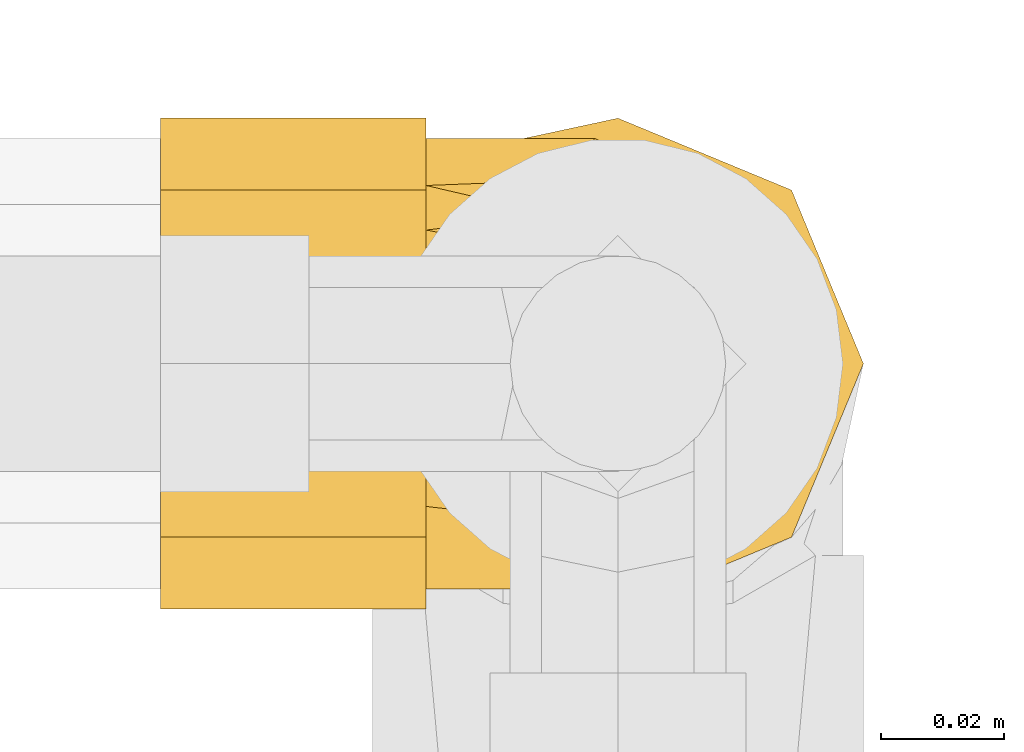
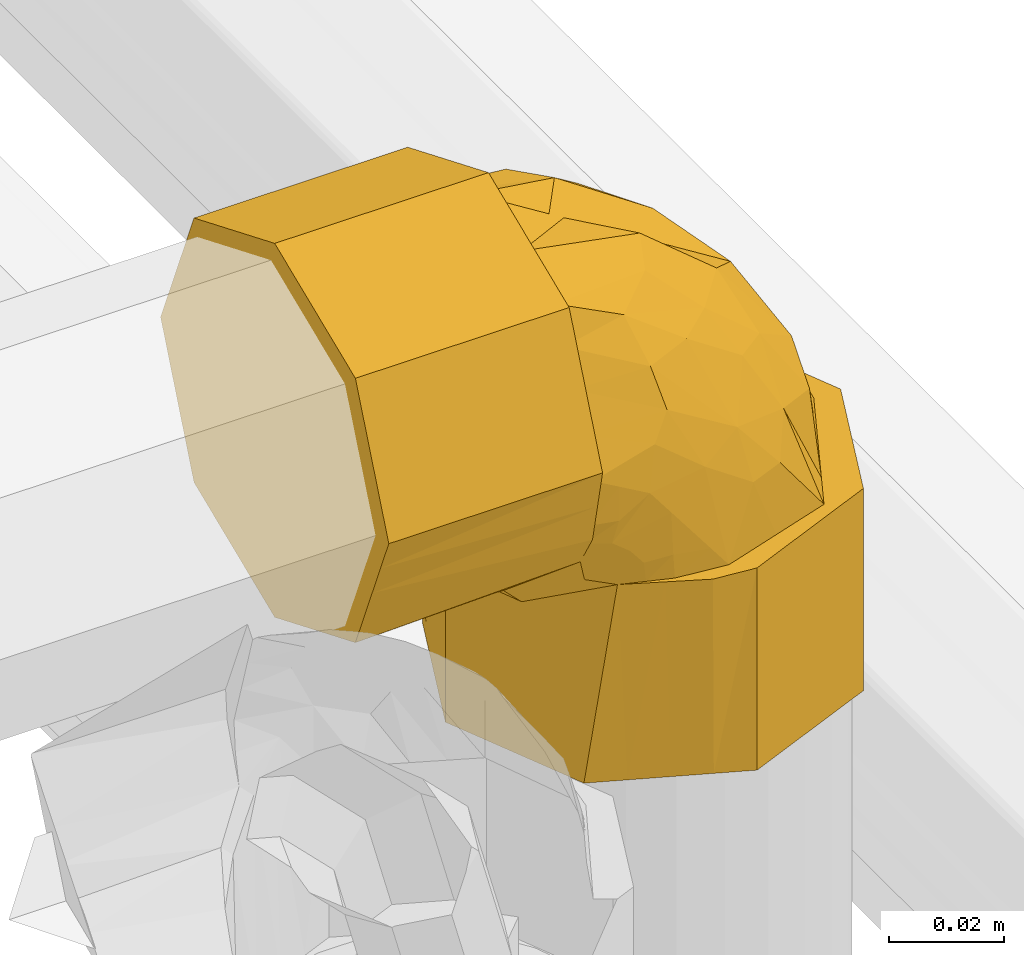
# One storey, part 265 of 652: 1 covering.
"""IFC2X3 building model written with IfcOpenShell, lengths in millimetres."""

from ifc_helpers import new_model, entity, si_unit, converted_unit, direction, frame, origin, place, context, subcontext, project, spatial, faceted_brep, material, type_object, element, save


model = new_model("IFC2X3")

# Units and contexts
model_context = context("Model", 3, precision=0.01, world=frame((0.0, 0.0, 308426.39999999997)), true_north=direction((6.123233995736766e-17, 1.0)))
plan_context = context("Plan", 3, precision=0.01, world=frame((0.0, 0.0, 308426.39999999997)), true_north=direction((6.123233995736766e-17, 1.0)))
body_context = subcontext(model_context, "Body", "Model", "MODEL_VIEW")
ifc_project = project(units=[si_unit("LENGTHUNIT", "METRE", prefix="MILLI"), si_unit("AREAUNIT", "SQUARE_METRE"), si_unit("VOLUMEUNIT", "CUBIC_METRE"), converted_unit("PLANEANGLEUNIT", "DEGREE", entity("IfcPlaneAngleMeasure", 0.017453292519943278), si_unit("PLANEANGLEUNIT", "RADIAN"), dimensions=[0, 0, 0, 0, 0, 0, 0])], contexts=[model_context, plan_context])

# Site, building, storey
site_placement = place(None, origin())
site = spatial("IfcSite", under=ifc_project, at=site_placement, Name="Default", CompositionType="ELEMENT")
building_placement = place(site_placement, origin())
building = spatial("IfcBuilding", under=site, at=building_placement, CompositionType="ELEMENT")
storey_placement = place(building_placement, frame((0.0, 0.0, 1730.6999999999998)))
storey = spatial("IfcBuildingStorey", under=building, at=storey_placement, Name="EG_Produktion_FFB", CompositionType="ELEMENT", Elevation=1730.6999999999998)

# Covering
ifc_material = material(Name="Dämmung - Armaflex-Schlauch")
covering_type = type_object("IfcCoveringType", Name="Rohrdämmung außen:Armaflex-Schlauch", PredefinedType="INSULATION")
covering_placement = place(storey_placement, frame((77605.91574999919, 68123.64672776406, 3941.353272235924)))
element("IfcCovering", 1, at=covering_placement, inside=storey, type_object=covering_type, material=ifc_material, Name="Rohrdämmung außen:Armaflex-Schlauch", ObjectType="Rohrdämmung außen:Armaflex-Schlauch", PredefinedType="INSULATION", context=body_context, shape_type="Brep", body=[
    faceted_brep([(43.00574999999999, 6.083537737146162, -55.29344606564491), (43.00574999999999, 5.617026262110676, -51.30566939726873), (43.00574999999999, 4.890772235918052, -45.09759303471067), (43.00574999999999, 8.331864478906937, -37.461729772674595), (43.00574999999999, 11.772956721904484, -29.82586651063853), (43.00575000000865, 14.999973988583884, -22.66504057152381), (43.00574999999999, 18.22699125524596, -15.504214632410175), (43.00574999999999, 29.790131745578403, -11.253230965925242), (43.00574999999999, 41.35327223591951, -7.002247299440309), (43.00574999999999, 48.56686113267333, -10.651622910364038), (43.00574999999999, 55.78045002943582, -14.300998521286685), (43.00574999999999, 62.99403892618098, -17.950374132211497), (43.00574999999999, 70.2076278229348, -21.599749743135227), (43.00574999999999, 72.58441730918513, -28.940491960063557), (43.00574999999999, 75.20009477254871, -37.01904249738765), (43.00574999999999, 77.81577223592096, -45.09759303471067), (43.00574999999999, 77.08951820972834, -51.305669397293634), (43.00574999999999, 76.62300673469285, -55.29344606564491), (43.00574999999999, 74.98470757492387, -60.125242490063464), (43.00574999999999, 73.34640841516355, -64.95703891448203), (43.00574999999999, 76.78343970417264, -57.33963358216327), (43.00574999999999, 80.22047099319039, -49.72222824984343), (43.00574999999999, 81.11127223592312, -41.35327223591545), (43.00574999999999, 77.7993156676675, -33.357501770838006), (43.00574999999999, 75.28884793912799, -27.29669653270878), (43.00574999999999, 72.37763579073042, -20.26840868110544), (43.00574999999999, 69.46642364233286, -13.240120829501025), (43.00574999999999, 62.43813579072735, -10.32890868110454), (43.00574999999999, 55.409847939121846, -7.417696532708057), (43.00574999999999, 48.38156008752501, -4.506484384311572), (43.00574999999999, 41.35327223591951, -1.5952722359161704), (43.00574999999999, 33.35750170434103, -4.90722883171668), (43.00574999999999, 27.29669653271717, -7.417696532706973), (43.00574999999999, 20.268408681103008, -10.32890868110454), (43.00574999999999, 13.240120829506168, -13.240120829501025), (43.00574999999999, 10.3289086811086, -20.268408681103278), (43.00574999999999, 7.417696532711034, -27.296696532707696), (43.00574999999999, 4.907228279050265, -33.35750303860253), (43.00574999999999, 1.5952722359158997, -41.35327223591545), (43.00574999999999, 3.3544632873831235, -49.529283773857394), (43.00574999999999, 5.113654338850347, -57.70529531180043), (43.00574999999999, 9.36013605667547, -64.95703891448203), (43.00574999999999, 7.721836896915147, -60.125242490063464), (0.0, 78.20006008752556, -48.381560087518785), (0.0, 75.28884793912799, -55.409847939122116), (0.0, 72.37763579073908, -62.438135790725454), (0.0, 69.46642364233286, -69.46642364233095), (0.0, 62.43813579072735, -72.37763579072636), (0.0, 55.409847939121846, -75.28884793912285), (0.0, 49.349042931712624, -77.79931557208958), (0.0, 41.35327223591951, -81.1112722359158), (0.0, 33.357503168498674, -77.79931624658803), (0.0, 27.296696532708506, -75.28884793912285), (0.0, 20.268408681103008, -72.37763579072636), (0.0, 13.240120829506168, -69.46642364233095), (0.0, 10.328908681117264, -62.438135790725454), (0.0, 7.417696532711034, -55.409847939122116), (0.0, 4.506484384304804, -48.381560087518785), (0.0, 1.5952722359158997, -41.35327223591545), (0.0, 4.506484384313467, -34.32498438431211), (0.0, 7.417696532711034, -27.296696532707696), (0.0, 10.328908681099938, -20.26840868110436), (0.0, 13.240120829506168, -13.240120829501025), (0.0, 20.26840868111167, -10.328908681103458), (0.0, 27.29669653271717, -7.417696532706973), (0.0, 34.32498438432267, -4.506484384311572), (0.0, 41.35327223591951, -1.5952722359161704), (0.0, 48.38156008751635, -4.506484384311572), (0.0, 55.409847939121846, -7.417696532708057), (0.0, 62.43813579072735, -10.32890868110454), (0.0, 69.46642364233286, -13.240120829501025), (0.0, 74.48735878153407, -25.36173053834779), (0.0, 77.7993155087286, -33.3575013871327), (0.0, 81.11127223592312, -41.35327223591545), (39.14313917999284, 66.64936056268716, -70.72483298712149), (32.887345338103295, 41.35327223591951, -81.1112722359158), (34.0839368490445, 50.65279247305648, -78.80194964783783), (35.28052835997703, 59.952312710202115, -76.49262705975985), (34.68223260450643, 55.3025525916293, -77.64728835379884), (39.14313917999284, 16.057183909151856, -70.72483298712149), (34.0839368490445, 32.05375199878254, -78.80194964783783), (35.28052835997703, 22.754231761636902, -76.49262705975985), (33.441725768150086, 37.04480775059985, -80.04136388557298), (74.08425000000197, 1.5952722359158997, -72.43177223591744), (82.0800204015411, 4.907228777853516, -72.43177223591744), (88.14082570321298, 7.417696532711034, -72.43177223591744), (95.16911355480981, 10.328908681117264, -72.43177223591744), (102.19740140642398, 13.240120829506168, -72.43177223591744), (105.10861355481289, 20.26840868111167, -72.43177223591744), (108.01982570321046, 27.29669653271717, -72.43177223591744), (110.53029398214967, 33.357503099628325, -72.43177223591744), (113.84225000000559, 41.35327223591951, -72.43177223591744), (110.53029355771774, 49.34904239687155, -72.43177223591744), (108.01982570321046, 55.409847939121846, -72.43177223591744), (105.10861355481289, 62.43813579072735, -72.43177223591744), (102.19740140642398, 69.46642364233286, -72.43177223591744), (95.16911355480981, 72.37763579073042, -72.43177223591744), (88.14082570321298, 75.28884793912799, -72.43177223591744), (81.11253785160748, 78.20006008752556, -72.43177223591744), (74.08425000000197, 81.11127223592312, -72.43177223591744), (65.90823846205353, 79.3520811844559, -72.43177223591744), (57.73222692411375, 77.59289013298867, -72.43177223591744), (50.48048332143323, 73.34640841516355, -72.43177223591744), (55.31227974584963, 74.98470757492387, -72.43177223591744), (60.14407617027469, 76.62300673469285, -72.43177223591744), (64.13185213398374, 77.08951812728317, -72.43177223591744), (67.23589066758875, 77.45264518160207, -72.43177223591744), (70.33992920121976, 77.81577223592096, -72.43177223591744), (77.73827380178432, 74.48171748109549, -72.43177223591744), (85.13661840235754, 71.14766272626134, -72.43177223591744), (92.5349630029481, 67.81360797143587, -72.43177223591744), (99.93330760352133, 64.47955321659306, -72.43177223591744), (102.0587994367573, 58.69798297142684, -72.43177223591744), (104.18429126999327, 52.91641272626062, -72.43177223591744), (108.4352749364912, 41.35327223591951, -72.43177223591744), (104.78589932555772, 34.139683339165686, -72.43177223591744), (101.1365237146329, 26.926094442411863, -72.43177223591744), (97.48714810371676, 19.712505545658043, -72.43177223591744), (93.83777249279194, 12.498916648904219, -72.43177223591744), (87.9633116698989, 10.596880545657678, -72.43177223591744), (82.08885084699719, 8.694844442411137, -72.43177223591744), (70.33992920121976, 4.890772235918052, -72.43177223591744), (67.23589066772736, 5.253899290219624, -72.43177223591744), (64.13185213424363, 5.617026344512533, -72.43177223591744), (60.14407617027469, 6.083537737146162, -72.43177223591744), (55.31227974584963, 7.721836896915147, -72.43177223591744), (50.48048332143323, 9.36013605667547, -72.43177223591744), (58.097888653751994, 5.923104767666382, -72.43177223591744), (65.71529398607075, 2.486073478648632, -72.43177223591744), (81.11253785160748, 78.20006008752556, -115.43752223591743), (88.14082570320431, 75.28884793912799, -115.43752223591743), (95.16911355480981, 72.37763579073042, -115.43752223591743), (102.19740140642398, 69.46642364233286, -115.43752223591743), (107.21833667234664, 57.34481362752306, -115.43752223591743), (110.53029333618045, 49.349042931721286, -115.43752223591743), (113.84225000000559, 41.35327223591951, -115.43752223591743), (110.93103785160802, 34.32498438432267, -115.43752223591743), (108.01982570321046, 27.29669653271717, -115.43752223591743), (105.10861355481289, 20.26840868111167, -115.43752223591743), (102.19740140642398, 13.240120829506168, -115.43752223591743), (95.16911355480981, 10.328908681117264, -115.43752223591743), (88.14082570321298, 7.417696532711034, -115.43752223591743), (81.11253785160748, 4.506484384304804, -115.43752223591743), (74.08425000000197, 1.5952722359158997, -115.43752223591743), (67.05596214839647, 4.506484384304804, -115.43752223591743), (60.02767429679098, 7.417696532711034, -115.43752223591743), (52.99938644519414, 10.328908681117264, -115.43752223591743), (45.971098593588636, 13.240120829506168, -115.43752223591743), (43.05988644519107, 20.26840868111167, -115.43752223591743), (40.1486742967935, 27.29669653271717, -115.43752223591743), (37.63820673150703, 33.35750137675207, -115.43752223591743), (34.32625000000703, 41.35327223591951, -115.43752223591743), (37.638205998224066, 49.34904132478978, -115.43752223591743), (40.14867429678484, 55.409847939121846, -115.43752223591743), (43.05988644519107, 62.43813579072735, -115.43752223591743), (45.971098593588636, 69.46642364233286, -115.43752223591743), (52.99938644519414, 72.37763579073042, -115.43752223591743), (60.02767429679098, 75.28884793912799, -115.43752223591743), (66.08847915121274, 77.79931550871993, -115.43752223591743), (74.08425000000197, 81.11127223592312, -115.43752223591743), (34.32624999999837, 41.35327223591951, -82.55017689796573), (36.63557258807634, 50.65279247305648, -81.3535853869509), (38.94489517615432, 59.95231271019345, -80.15699387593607), (36.466066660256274, 49.97020104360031, -81.44141605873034), (44.71268924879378, 66.6493605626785, -76.29438305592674), (44.71268924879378, 16.057183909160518, -76.29438305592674), (36.635572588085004, 32.05375199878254, -81.3535853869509), (38.94489517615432, 22.754231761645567, -80.15699387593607), (36.46606666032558, 32.73634342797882, -81.4414160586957), (35.39615833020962, 37.0448078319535, -81.99579647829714), (87.24563107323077, 70.58570371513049, -57.27953829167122), (59.25537915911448, 70.84194655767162, -29.1965624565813), (64.7856822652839, 74.32849001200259, -39.99677644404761), (54.444618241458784, 77.81577223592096, -51.665813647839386), (57.53683977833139, 77.00211431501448, -44.427643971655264), (69.54060567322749, 76.88844933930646, -55.10574679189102), (78.6127307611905, 68.42603953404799, -40.74800020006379), (63.63300022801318, 65.42597622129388, -24.8697494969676), (91.69909945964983, 41.35327223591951, -37.51558616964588), (97.09379966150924, 49.423246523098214, -46.80229075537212), (80.92903244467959, 49.76955400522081, -27.55975639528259), (55.17908736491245, 41.35327223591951, -14.63058201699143), (61.71355754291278, 50.78343827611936, -14.918451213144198), (81.91063946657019, 62.18567496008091, -36.22638004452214), (68.51539346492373, 77.81577223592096, -70.04816151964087), (66.69085772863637, 77.8157722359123, -67.66455080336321), (63.04178625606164, 77.81577223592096, -62.897329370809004), (58.74320224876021, 77.81577223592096, -57.281571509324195), (92.2422534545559, 65.52092940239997, -54.940238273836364), (71.24210235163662, 59.20806438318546, -24.562664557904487), (57.40923450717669, 60.22410783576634, -17.335133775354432), (92.66510975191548, 58.19488232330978, -45.83903622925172), (84.60868936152, 55.853767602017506, -33.941245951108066), (100.06718719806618, 41.35327223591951, -54.97367920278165), (100.62176107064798, 41.35327223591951, -56.13067021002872), (67.3524247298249, 41.35327223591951, -22.258916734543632), (73.31662804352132, 41.35327223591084, -25.996342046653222), (79.52576209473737, 41.35327223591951, -29.887251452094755), (100.49812847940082, 55.751720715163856, -57.75457775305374), (78.60346314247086, 73.79715375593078, -53.084365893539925), (58.16118902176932, 41.35327223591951, -16.499294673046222), (48.25776996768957, 77.81577223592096, -48.11331321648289), (48.611422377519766, 77.16648559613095, -55.88980313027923), (47.90470472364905, 75.95462844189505, -61.14799943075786), (33.63371593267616, 41.35327223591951, -81.80380630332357), (51.459156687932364, 76.0357200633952, -63.97836606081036), (44.908883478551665, 71.49570768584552, -70.52863846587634), (54.28952252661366, 75.95462822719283, -67.53281820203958), (59.518701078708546, 77.15152320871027, -66.92088050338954), (48.611422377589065, 5.540058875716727, -55.88980313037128), (48.25776996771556, 4.890772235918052, -48.11331321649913), (44.90888338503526, 11.210837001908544, -70.52863882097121), (51.459155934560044, 6.670824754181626, -63.978366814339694), (47.90470469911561, 6.7519160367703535, -61.14799943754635), (58.743202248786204, 4.890772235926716, -57.281571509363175), (54.28952251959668, 6.7519162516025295, -67.53281822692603), (59.51870107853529, 5.555021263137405, -66.92088050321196), (66.69085772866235, 4.890772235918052, -67.66455080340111), (54.444618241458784, 4.890772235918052, -51.665813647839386), (68.51539346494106, 4.890772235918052, -70.04816151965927), (63.041786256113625, 4.89077223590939, -62.897329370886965), (59.61186262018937, 7.90055709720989, -37.54867793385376), (58.14792793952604, 11.144292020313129, -29.753616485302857), (76.41301603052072, 6.907352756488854, -58.23539538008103), (83.37405497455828, 31.821832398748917, -30.21968406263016), (79.87091005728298, 16.763579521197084, -38.43788537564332), (74.44381850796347, 9.117077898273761, -47.15067212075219), (86.90253298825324, 14.598856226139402, -50.85120006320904), (66.09863101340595, 5.892051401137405, -50.71304963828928), (55.98858201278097, 5.886693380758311, -42.398132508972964), (67.81026209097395, 15.338625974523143, -29.782072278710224), (86.6462536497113, 22.521459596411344, -39.604136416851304), (98.35278997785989, 31.617498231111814, -49.78456672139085), (96.79734628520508, 22.69544496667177, -54.986101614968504), (83.33506495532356, 9.61944594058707, -58.13081411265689), (64.80279365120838, 24.56861790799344, -19.784818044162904), (74.76137203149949, 21.067876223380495, -29.107014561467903), (55.99524376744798, 16.734184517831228, -21.4189015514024), (68.64794002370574, 33.08278710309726, -18.40551201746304)], [[[0, 1, 2, 3, 4, 5, 6, 7, 8, 9, 10, 11, 12, 13, 14, 15, 16, 17, 18, 19, 20, 21, 22, 23, 24, 25, 26, 27, 28, 29, 30, 31, 32, 33, 34, 35, 36, 37, 38, 39, 40, 41, 42]], [[43, 44, 45, 46, 47, 48, 49, 50, 51, 52, 53, 54, 55, 56, 57, 58, 59, 60, 61, 62, 63, 64, 65, 66, 67, 68, 69, 70, 71, 72, 73]], [[47, 46, 74]], [[75, 50, 49]], [[76, 75, 49]], [[48, 77, 78, 76]], [[47, 74, 77]], [[44, 20, 45]], [[43, 21, 44]], [[46, 19, 74]], [[77, 48, 47]], [[44, 21, 20]], [[43, 22, 21]], [[48, 76, 49]], [[43, 73, 22]], [[45, 20, 19]], [[19, 46, 45]], [[23, 22, 73, 72, 71, 70, 26, 25, 24]], [[26, 70, 69, 68, 67, 66, 30, 29, 28, 27]], [[38, 37, 36, 35, 34, 62, 61, 60, 59, 58]], [[30, 66, 65, 64, 63, 62, 34, 33, 32, 31]], [[56, 40, 39]], [[53, 79, 54]], [[39, 57, 56]], [[41, 55, 54]], [[40, 55, 41]], [[80, 52, 51]], [[52, 80, 81]], [[58, 57, 38]], [[51, 75, 82, 80]], [[38, 57, 39]], [[79, 53, 81]], [[55, 40, 56]], [[51, 50, 75]], [[53, 52, 81]], [[79, 41, 54]], [[83, 84, 85, 86, 87, 88, 89, 90, 91, 92, 93, 94, 95, 96, 97, 98, 99, 100, 101, 102, 103, 104, 105, 106, 107, 108, 109, 110, 111, 112, 113, 114, 115, 116, 117, 118, 119, 120, 121, 122, 123, 124, 125, 126, 127, 128]], [[129, 130, 131, 132, 133, 134, 135, 136, 137, 138, 139, 140, 141, 142, 143, 144, 145, 146, 147, 148, 149, 150, 151, 152, 153, 154, 155, 156, 157, 158, 159]], [[135, 134, 133, 132, 95, 94, 93, 92, 91]], [[95, 132, 131, 130, 129, 159, 99, 98, 97, 96]], [[159, 158, 157, 100]], [[101, 156, 102]], [[99, 159, 100]], [[101, 100, 157]], [[152, 151, 160]], [[102, 156, 155]], [[153, 161, 162]], [[161, 153, 152]], [[152, 160, 163, 161]], [[154, 164, 155]], [[164, 154, 162]], [[156, 101, 157]], [[154, 153, 162]], [[164, 102, 155]], [[148, 147, 165]], [[149, 166, 150]], [[166, 149, 167]], [[160, 151, 150]], [[148, 165, 167]], [[145, 127, 146]], [[144, 128, 145]], [[147, 126, 165]], [[167, 149, 148]], [[145, 128, 127]], [[144, 83, 128]], [[150, 166, 168, 169, 160]], [[144, 143, 83]], [[146, 127, 126]], [[126, 147, 146]], [[91, 90, 89, 88, 87, 139, 138, 137, 136, 135]], [[141, 140, 139, 87, 86, 85, 84, 83, 143, 142]], [[109, 170, 110]], [[13, 171, 172]], [[14, 13, 172]], [[173, 174, 175]], [[176, 171, 177]], [[15, 14, 174]], [[178, 179, 180]], [[9, 181, 182]], [[172, 175, 174]], [[13, 12, 171]], [[12, 11, 177]], [[176, 177, 183]], [[175, 107, 184, 185, 186, 187, 173]], [[188, 170, 176]], [[176, 172, 171]], [[189, 190, 182]], [[11, 10, 190]], [[177, 11, 190]], [[170, 188, 110]], [[191, 183, 192]], [[179, 178, 193, 194]], [[182, 190, 10]], [[182, 195, 180]], [[177, 190, 189]], [[182, 10, 9]], [[180, 195, 196, 197, 178]], [[177, 189, 183]], [[177, 171, 12]], [[113, 179, 194]], [[189, 182, 180]], [[112, 111, 198, 113]], [[198, 111, 188]], [[194, 114, 113]], [[179, 191, 192]], [[199, 175, 172]], [[199, 108, 175]], [[172, 176, 199]], [[188, 111, 110]], [[199, 170, 109]], [[183, 188, 176]], [[108, 199, 109]], [[188, 191, 198]], [[108, 107, 175]], [[176, 170, 199]], [[192, 189, 180]], [[188, 183, 191]], [[189, 192, 183]], [[179, 192, 180]], [[181, 9, 8]], [[182, 181, 200, 195]], [[191, 179, 198]], [[179, 113, 198]], [[174, 173, 201, 15]], [[172, 174, 14]], [[173, 202, 201]], [[173, 187, 203]], [[18, 203, 19]], [[201, 17, 16, 15]], [[204, 76, 163]], [[74, 164, 162, 77]], [[163, 76, 78, 77, 162, 161]], [[205, 102, 206]], [[206, 164, 74]], [[106, 105, 104, 185, 184, 107]], [[205, 207, 102]], [[186, 185, 208, 187]], [[204, 75, 76]], [[163, 160, 204]], [[205, 206, 19]], [[164, 206, 102]], [[203, 205, 19]], [[19, 206, 74]], [[201, 202, 17]], [[17, 202, 18]], [[203, 202, 173]], [[18, 202, 203]], [[102, 207, 103]], [[103, 208, 104]], [[207, 205, 187]], [[208, 103, 207]], [[208, 185, 104]], [[187, 208, 207]], [[203, 187, 205]], [[204, 160, 169]], [[209, 210, 0]], [[169, 168, 166, 167, 81, 80, 82]], [[41, 211, 212]], [[1, 0, 210, 2]], [[213, 212, 214]], [[204, 169, 82]], [[79, 165, 211]], [[126, 125, 215]], [[212, 211, 126]], [[204, 82, 75]], [[167, 165, 79, 81]], [[216, 124, 217]], [[218, 209, 213]], [[122, 121, 219, 217, 124, 123]], [[41, 79, 211]], [[211, 165, 126]], [[209, 0, 42]], [[125, 124, 216]], [[126, 215, 212]], [[125, 216, 215]], [[220, 214, 216, 217]], [[213, 42, 41]], [[212, 213, 41]], [[210, 209, 218]], [[214, 212, 215]], [[209, 42, 213]], [[215, 216, 214]], [[218, 213, 214]], [[4, 221, 222]], [[223, 121, 120]], [[224, 178, 197, 196]], [[225, 226, 227]], [[228, 226, 221]], [[229, 218, 228]], [[222, 226, 230]], [[231, 232, 224]], [[3, 229, 221]], [[233, 232, 231]], [[234, 223, 120]], [[229, 2, 210, 218]], [[224, 235, 236]], [[4, 3, 221]], [[228, 218, 214, 220, 217, 219, 121]], [[237, 222, 230]], [[6, 235, 7]], [[235, 6, 237]], [[238, 200, 7]], [[228, 223, 226]], [[224, 238, 235]], [[234, 226, 223]], [[227, 117, 233]], [[193, 232, 115]], [[224, 232, 178]], [[115, 114, 194, 193]], [[235, 237, 236]], [[238, 224, 196]], [[226, 222, 221]], [[222, 237, 5]], [[5, 237, 6]], [[5, 4, 222]], [[237, 230, 236]], [[7, 200, 181, 8]], [[7, 235, 238]], [[238, 196, 195, 200]], [[227, 118, 117]], [[193, 178, 232]], [[231, 236, 225]], [[233, 117, 116]], [[232, 233, 116]], [[227, 233, 231]], [[229, 3, 2]], [[228, 221, 229]], [[121, 223, 228]], [[119, 118, 234, 120]], [[234, 118, 227]], [[227, 226, 234]], [[232, 116, 115]], [[225, 236, 230]], [[224, 236, 231]], [[226, 225, 230]], [[231, 225, 227]]]),
])

save(model, "model.ifc")
